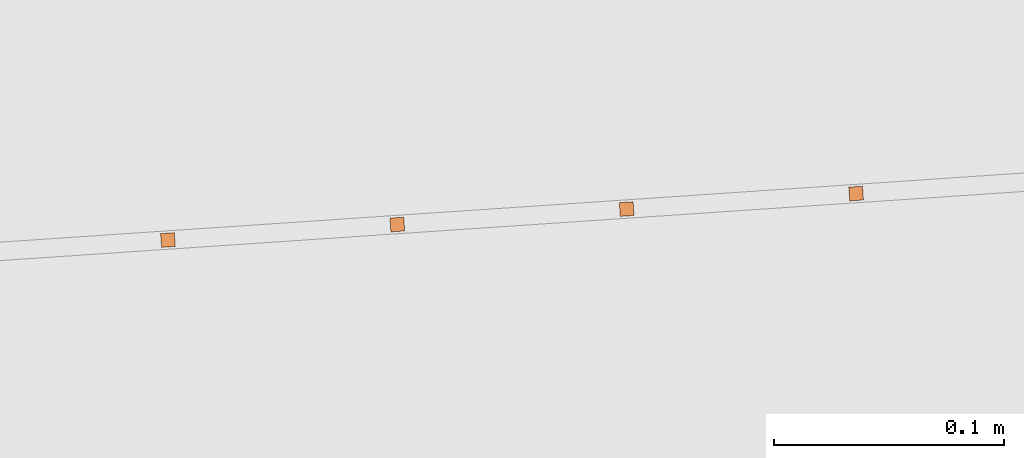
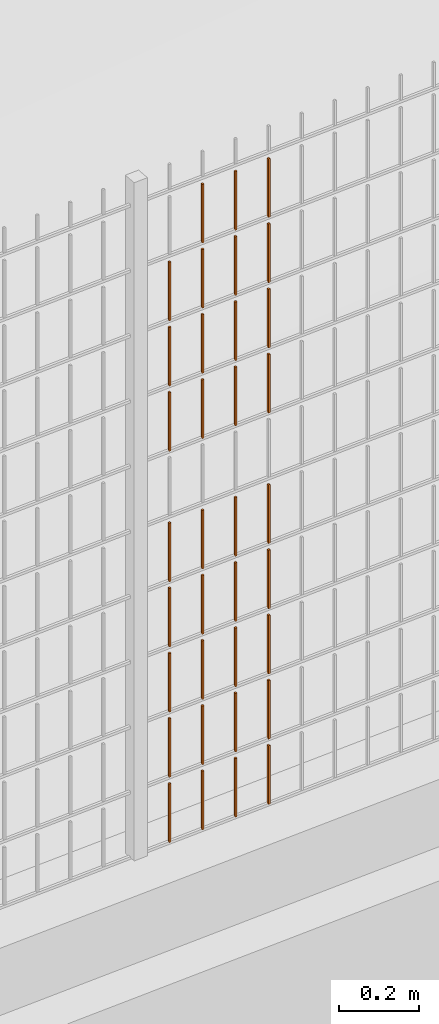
# One storey, part 187 of 1809: 35 proxies, 1 element without a shape of its own.
"""IFC2X3 building model written with IfcOpenShell, lengths in millimetres."""

import ifcopenshell
import ifcopenshell.guid

model = None  # the IFC model being written
_history = None  # IfcOwnerHistory: only IFC2X3 demands one
_inside = {}  # id of a spatial element -> (the spatial element, [elements in it])
_under = {}  # id of a project, library or spatial element -> (it, [spatial elements below it])
_declared = {}  # id of a project -> (the project, [libraries it declares])
_typed = {}  # id of a type object -> (the type object, [elements of that type])
_made_of = {}  # id of a material, layer set ... -> (it, [elements and type objects made of it])


def new_model(schema):
    """Start an empty IFC model of exactly this schema.

    Asked for "IFC4X3", IfcOpenShell would pick the latest addendum, in which some entities
    have other attributes; the version numbers below select the first issue.
    IFC2X3 requires an IfcOwnerHistory on every rooted entity: one is made here for all.
    """
    global model, _history
    if schema == "IFC4X3":
        model = ifcopenshell.file(schema_version=(4, 3, 0, 0))
    else:
        model = ifcopenshell.file(schema=schema)
    _inside.clear()
    _under.clear()
    _declared.clear()
    _typed.clear()
    _made_of.clear()
    _history = None
    if model.schema == "IFC2X3":
        org = make("IfcOrganization", Name="unknown")
        user = make(
            "IfcPersonAndOrganization",
            ThePerson=make("IfcPerson", FamilyName="unknown"),
            TheOrganization=org,
        )
        app = make(
            "IfcApplication",
            ApplicationDeveloper=org,
            Version="unknown",
            ApplicationFullName="unknown",
            ApplicationIdentifier="unknown",
        )
        _history = make(
            "IfcOwnerHistory",
            OwningUser=user,
            OwningApplication=app,
            ChangeAction="ADDED",
            CreationDate=0,
        )
    return model


def make(cls, **values):
    """One entity of the class cls with the attributes given. An attribute that is None is left unset."""
    return model.create_entity(
        cls, **{name: value for name, value in values.items() if value is not None}
    )


def entity(cls, *values):
    """Any entity or typed value of the class cls, its attributes in the order of the schema. None: left unset."""
    e = model.create_entity(cls)
    for i, value in enumerate(values):
        if value is not None:
            e[i] = value
    return e


def rooted(cls, **values):
    """An entity with a GlobalId (a new one), such as an element, a storey or a relation."""
    return make(cls, GlobalId=ifcopenshell.guid.new(), OwnerHistory=_history, **values)


def si_unit(unit_type, name, prefix=None):
    """IfcSIUnit, for example si_unit("LENGTHUNIT", "METRE", prefix="MILLI")."""
    return make("IfcSIUnit", UnitType=unit_type, Prefix=prefix, Name=name)


def converted_unit(unit_type, name, factor, base, dimensions=None, offset=None):
    """IfcConversionBasedUnit, such as the inch: factor (a typed value) times the base unit."""
    return make(
        "IfcConversionBasedUnit"
        if offset is None
        else "IfcConversionBasedUnitWithOffset",
        ConversionOffset=offset,
        Dimensions=None
        if dimensions is None
        else entity("IfcDimensionalExponents", *dimensions),
        UnitType=unit_type,
        Name=name,
        ConversionFactor=make(
            "IfcMeasureWithUnit", ValueComponent=factor, UnitComponent=base
        ),
    )


def derived_unit(unit_type, elements):
    """IfcDerivedUnit: a product of units, each with its exponent."""
    return make(
        "IfcDerivedUnit",
        Elements=[
            make("IfcDerivedUnitElement", Unit=unit, Exponent=power)
            for unit, power in elements
        ],
        UnitType=unit_type,
    )


def money_unit(currency):
    """IfcMonetaryUnit."""
    return make("IfcMonetaryUnit", Currency=currency)


def assignment(units):
    """IfcUnitAssignment: the units of a project."""
    return None if units is None else make("IfcUnitAssignment", Units=units)


def point(xyz):
    """IfcCartesianPoint."""
    return None if xyz is None else make("IfcCartesianPoint", Coordinates=xyz)


def direction(xyz):
    """IfcDirection."""
    return None if xyz is None else make("IfcDirection", DirectionRatios=xyz)


def frame(location, z_axis=None, x_axis=None):
    """IfcAxis2Placement3D, a coordinate frame: its origin and axes. An axis left out is left unset."""
    return make(
        "IfcAxis2Placement3D",
        Location=point(location),
        Axis=direction(z_axis),
        RefDirection=direction(x_axis),
    )


def origin_with_axes():
    """The frame at (0, 0, 0) with the z axis (0, 0, 1) and the x axis (1, 0, 0) written out."""
    return frame((0.0, 0.0, 0.0), z_axis=(0.0, 0.0, 1.0), x_axis=(1.0, 0.0, 0.0))


def place(relative_to, where):
    """IfcLocalPlacement: puts the frame where relative to a parent placement (None: the world)."""
    return make(
        "IfcLocalPlacement", PlacementRelTo=relative_to, RelativePlacement=where
    )


def context(
    kind, dimensions, precision=None, world=None, true_north=None, identifier=None
):
    """IfcGeometricRepresentationContext, for example the 3D "Model" context."""
    return make(
        "IfcGeometricRepresentationContext",
        ContextIdentifier=identifier,
        ContextType=kind,
        CoordinateSpaceDimension=dimensions,
        Precision=precision,
        WorldCoordinateSystem=world,
        TrueNorth=true_north,
    )


def subcontext(parent, identifier, kind, view, scale=None):
    """IfcGeometricRepresentationSubContext, for example "Body" below "Model"."""
    return make(
        "IfcGeometricRepresentationSubContext",
        ContextIdentifier=identifier,
        ContextType=kind,
        ParentContext=parent,
        TargetScale=scale,
        TargetView=view,
    )


def project(units=None, contexts=None):
    """IfcProject with its units and contexts."""
    return rooted(
        "IfcProject",
        Name="project",
        RepresentationContexts=contexts,
        UnitsInContext=assignment(units),
    )


def spatial(cls, under=None, at=None, **own):
    """A site, building, storey or space (cls), placed at a placement, below another one or the project."""
    s = rooted(cls, ObjectPlacement=at, **own)
    if under is not None:
        _under.setdefault(under.id(), (under, []))[1].append(s)
    return s


def faces_of(points, faces, orient=None, outer=None):
    """IfcFace entities. A face is a list of loops; a loop is a list of indices into points, from 0.

    orient and outer hold one flag for each loop. By default every Orientation is true, the
    first loop of a face is its IfcFaceOuterBound and the others are IfcFaceBound.
    """
    made = []
    for i, loops in enumerate(faces):
        bounds = []
        for j, loop in enumerate(loops):
            is_outer = j == 0 if outer is None else outer[i][j]
            bounds.append(
                make(
                    "IfcFaceOuterBound" if is_outer else "IfcFaceBound",
                    Bound=make("IfcPolyLoop", Polygon=[points[k] for k in loop]),
                    Orientation=True if orient is None else orient[i][j],
                )
            )
        made.append(make("IfcFace", Bounds=bounds))
    return made


def faceted_brep(points, faces, orient=None, outer=None, voids=None):
    """IfcFacetedBrep: a solid bounded by flat faces; with voids (closed shells), ...WithVoids."""
    shared = [point(p) for p in points]
    hull = make("IfcClosedShell", CfsFaces=faces_of(shared, faces, orient, outer))
    if voids is None:
        return make("IfcFacetedBrep", Outer=hull)
    return make(
        "IfcFacetedBrepWithVoids",
        Outer=hull,
        Voids=[
            make(cls, CfsFaces=faces_of(shared, fs, o, b)) for cls, fs, o, b in voids
        ],
    )


def shape(context_of_items, identifier, shape_type, items):
    """IfcShapeRepresentation: the items that make up one representation, for example the "Body"."""
    return make(
        "IfcShapeRepresentation",
        ContextOfItems=context_of_items,
        RepresentationIdentifier=identifier,
        RepresentationType=shape_type,
        Items=items,
    )


def source(mapping_origin, context_of_items, identifier, shape_type, items):
    """IfcRepresentationMap: a shape defined once, which mapped items show again and again."""
    return make(
        "IfcRepresentationMap",
        MappingOrigin=mapping_origin,
        MappedRepresentation=shape(context_of_items, identifier, shape_type, items),
    )


def transform(
    local_origin,
    x_axis=None,
    y_axis=None,
    z_axis=None,
    scale=None,
    scale2=None,
    scale3=None,
    uniform=True,
):
    """IfcCartesianTransformationOperator3D, or its non-uniform kind. x_axis, y_axis, z_axis: its Axis1, 2, 3."""
    if uniform:
        return make(
            "IfcCartesianTransformationOperator3D",
            Axis1=direction(x_axis),
            Axis2=direction(y_axis),
            LocalOrigin=point(local_origin),
            Scale=scale,
            Axis3=direction(z_axis),
        )
    return make(
        "IfcCartesianTransformationOperator3DnonUniform",
        Axis1=direction(x_axis),
        Axis2=direction(y_axis),
        LocalOrigin=point(local_origin),
        Scale=scale,
        Axis3=direction(z_axis),
        Scale2=scale2,
        Scale3=scale3,
    )


def mapped(mapping_source, mapping_target):
    """IfcMappedItem: shows the shape of a source again, moved by a transform."""
    return make(
        "IfcMappedItem", MappingSource=mapping_source, MappingTarget=mapping_target
    )


def material(Name=None, Category=None):
    """IfcMaterial."""
    return make("IfcMaterial", Name=Name, Category=Category)


def made_of(thing, what):
    """Note that an element or type object is made of a material, layer set ...; save() writes the relation."""
    if what is not None:
        _made_of.setdefault(what.id(), (what, []))[1].append(thing)
    return thing


def type_object(cls, material=None, **own):
    """A type object (cls), such as IfcWallType, which elements share."""
    return made_of(rooted(cls, **own), material)


def element(
    cls,
    number,
    at=None,
    inside=None,
    cuts=None,
    type_object=None,
    material=None,
    context=None,
    identifier="Body",
    shape_type=None,
    held_by="IfcProductDefinitionShape",
    body=None,
    shapes=None,
    **own,
):
    """One element of the class cls, such as IfcWall. Its Tag is "e" and its number.

    at: its placement. inside: the storey or other place that contains it. cuts: it is an
    opening in that element (IfcRelVoidsElement). A single representation is given by context,
    identifier, shape_type and body (its items); several are given by shapes. held_by: the class
    of the entity that holds the representations. save() writes the other relations.
    """
    e = rooted(cls, Tag="e%d" % number, ObjectPlacement=at, **own)
    if body is not None:
        shapes = [shape(context, identifier, shape_type, body)]
    if shapes is not None:
        e.Representation = make(held_by, Representations=shapes)
    if inside is not None:
        _inside.setdefault(inside.id(), (inside, []))[1].append(e)
    if cuts is not None:
        rooted(
            "IfcRelVoidsElement", RelatingBuildingElement=cuts, RelatedOpeningElement=e
        )
    if type_object is not None:
        _typed.setdefault(type_object.id(), (type_object, []))[1].append(e)
    return made_of(e, material)


def aggregate(whole, parts):
    """IfcRelAggregates: a whole, such as a stair, and the parts it consists of."""
    return rooted("IfcRelAggregates", RelatingObject=whole, RelatedObjects=parts)


def save(model, path):
    """Write the relations noted so far, then the file.

    IfcRelAggregates (storeys below a building ...), IfcRelContainedInSpatialStructure (elements
    in a storey), IfcRelDefinesByType, IfcRelAssociatesMaterial and IfcRelDeclares: one each for
    every whole, place, type object, material and project.
    """
    for whole, parts in _under.values():
        aggregate(whole, parts)
    for where, things in _inside.values():
        rooted(
            "IfcRelContainedInSpatialStructure",
            RelatedElements=things,
            RelatingStructure=where,
        )
    for kind, things in _typed.values():
        rooted("IfcRelDefinesByType", RelatedObjects=things, RelatingType=kind)
    for what, things in _made_of.values():
        rooted("IfcRelAssociatesMaterial", RelatedObjects=things, RelatingMaterial=what)
    for by, libraries in _declared.values():
        rooted("IfcRelDeclares", RelatingContext=by, RelatedDefinitions=libraries)
    model.write(path)


model = new_model("IFC2X3")

# Units and contexts
model_context = context("Model", 3, precision=0.01, world=origin_with_axes(), true_north=direction((0.0, 1.0)))
body_context = subcontext(model_context, "Body", "Model", "MODEL_VIEW")
ifc_project = project(units=[si_unit("LENGTHUNIT", "METRE", prefix="MILLI"), si_unit("AREAUNIT", "SQUARE_METRE"), si_unit("VOLUMEUNIT", "CUBIC_METRE"), converted_unit("PLANEANGLEUNIT", "DEGREE", entity("IfcPlaneAngleMeasure", 0.0174532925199), si_unit("PLANEANGLEUNIT", "RADIAN"), dimensions=[0, 0, 0, 0, 0, 0, 0]), si_unit("SOLIDANGLEUNIT", "STERADIAN"), money_unit("EUR"), converted_unit("TIMEUNIT", "Year", entity("IfcTimeMeasure", 31556926.0), si_unit("TIMEUNIT", "SECOND"), dimensions=[0, 0, 1, 0, 0, 0, 0]), si_unit("MASSUNIT", "GRAM", prefix="KILO"), si_unit("THERMODYNAMICTEMPERATUREUNIT", "DEGREE_CELSIUS"), si_unit("LUMINOUSINTENSITYUNIT", "LUMEN"), si_unit("ENERGYUNIT", "JOULE", prefix="MEGA"), derived_unit("THERMALCONDUCTANCEUNIT", [(si_unit("POWERUNIT", "WATT"), 1), (si_unit("LENGTHUNIT", "METRE"), -1), (si_unit("THERMODYNAMICTEMPERATUREUNIT", "KELVIN"), -1)]), derived_unit("SPECIFICHEATCAPACITYUNIT", [(si_unit("ENERGYUNIT", "JOULE"), 1), (si_unit("MASSUNIT", "GRAM", prefix="KILO"), -1), (si_unit("THERMODYNAMICTEMPERATUREUNIT", "KELVIN"), -1)]), derived_unit("MASSDENSITYUNIT", [(si_unit("MASSUNIT", "GRAM", prefix="KILO"), 1), (si_unit("VOLUMEUNIT", "CUBIC_METRE"), -1)])], contexts=[model_context])

# Site, building, storey
site_placement = place(None, origin_with_axes())
site = spatial("IfcSite", under=ifc_project, at=site_placement, Name="Politse- ja Piirivalveameti ning Päästeameti ühishoone", CompositionType="ELEMENT")
building_placement = place(site_placement, origin_with_axes())
building = spatial("IfcBuilding", under=site, at=building_placement, Name="Politse- ja Piirivalveameti ning Päästeameti ühishoone", CompositionType="ELEMENT")
storey_placement = place(building_placement, origin_with_axes())
storey = spatial("IfcBuildingStorey", under=building, at=storey_placement, Name="Esimene korrus", CompositionType="ELEMENT", Elevation=0.0)

# Proxies
building_element_proxy_type_1 = type_object("IfcBuildingElementProxyType", Name="Railing Type", PredefinedType="NOTDEFINED")
proxy_1_placement = place(storey_placement, frame((89252.001212, -29183.4766571, 203.661247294), z_axis=(0.0, 0.0, 1.0), x_axis=(1.0, 0.0, 0.0)))
proxy_1 = element("IfcBuildingElementProxy", 1, at=proxy_1_placement, inside=storey, type_object=building_element_proxy_type_1, Name="PIIRDEAED")
ifc_material = material(Name="ET-03_Raud")
building_element_proxy_type_2 = type_object("IfcBuildingElementProxyType", Name="IfcBuildingElementProxy", PredefinedType="NOTDEFINED")
shared_shape_1 = source(origin_with_axes(), body_context, "Body", "Brep", [
    faceted_brep([(3.0, 3.0, -0.000752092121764), (-3.0, 3.0, -0.000752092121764), (-3.0, 3.0, 179.99926046), (3.0, 3.0, 179.99926046), (3.0, -3.0, 0.000752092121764), (-3.0, -3.0, 0.000752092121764), (-3.0, -3.0, 180.000764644), (3.0, -3.0, 180.000764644)], [[[0, 1, 2, 3]], [[0, 4, 5, 1]], [[1, 5, 6, 2]], [[3, 2, 6, 7]], [[4, 0, 3, 7]], [[5, 4, 7, 6]]]),
])
proxy_2_placement = place(proxy_1_placement, frame((-69468.3937994, -21990.1025985, 1209.77915768), z_axis=(0.0, 0.0, 1.0), x_axis=(1.0, 0.0, 0.0)))
proxy_2 = element("IfcBuildingElementProxy", 2, at=proxy_2_placement, type_object=building_element_proxy_type_2, material=ifc_material, Name="BALUSTER - 001", context=body_context, shape_type="MappedRepresentation", body=[
    mapped(shared_shape_1, transform((0.0, 0.0, 0.0), x_axis=(-0.0673926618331, 0.997726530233, 0.0), y_axis=(-0.997726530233, -0.0673926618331, 0.0), z_axis=(0.0, 0.0, 1.0))),
])
shared_shape_2 = source(origin_with_axes(), body_context, "Body", "Brep", [
    faceted_brep([(3.0, 3.0, -0.000752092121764), (-3.0, 3.0, -0.000752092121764), (-3.0, 3.0, 179.99926046), (3.0, 3.0, 179.99926046), (3.0, -3.0, 0.000752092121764), (-3.0, -3.0, 0.000752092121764), (-3.0, -3.0, 180.000764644), (3.0, -3.0, 180.000764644)], [[[0, 1, 2, 3]], [[0, 4, 5, 1]], [[1, 5, 6, 2]], [[3, 2, 6, 7]], [[4, 0, 3, 7]], [[5, 4, 7, 6]]]),
])
proxy_3_placement = place(proxy_1_placement, frame((-69468.3937994, -21990.1025985, 1409.77915768), z_axis=(0.0, 0.0, 1.0), x_axis=(1.0, 0.0, 0.0)))
proxy_3 = element("IfcBuildingElementProxy", 3, at=proxy_3_placement, type_object=building_element_proxy_type_2, material=ifc_material, Name="BALUSTER - 001", context=body_context, shape_type="MappedRepresentation", body=[
    mapped(shared_shape_2, transform((0.0, 0.0, 0.0), x_axis=(-0.0673926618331, 0.997726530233, 0.0), y_axis=(-0.997726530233, -0.0673926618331, 0.0), z_axis=(0.0, 0.0, 1.0))),
])
proxy_4_placement = place(proxy_1_placement, frame((-69468.3937994, -21990.1025985, 1609.77915768), z_axis=(0.0, 0.0, 1.0), x_axis=(1.0, 0.0, 0.0)))
proxy_4 = element("IfcBuildingElementProxy", 4, at=proxy_4_placement, type_object=building_element_proxy_type_2, material=ifc_material, Name="BALUSTER - 001", context=body_context, shape_type="MappedRepresentation", body=[
    mapped(shared_shape_2, transform((0.0, 0.0, 0.0), x_axis=(-0.0673926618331, 0.997726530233, 0.0), y_axis=(-0.997726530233, -0.0673926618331, 0.0), z_axis=(0.0, 0.0, 1.0))),
])
shared_shape_3 = source(origin_with_axes(), body_context, "Body", "Brep", [
    faceted_brep([(3.0, 3.0, -0.000752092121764), (-3.0, 3.0, -0.000752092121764), (-3.0, 3.0, 179.99926046), (3.0, 3.0, 179.99926046), (3.0, -3.0, 0.000752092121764), (-3.0, -3.0, 0.000752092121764), (-3.0, -3.0, 180.000764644), (3.0, -3.0, 180.000764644)], [[[0, 1, 2, 3]], [[0, 4, 5, 1]], [[1, 5, 6, 2]], [[3, 2, 6, 7]], [[4, 0, 3, 7]], [[5, 4, 7, 6]]]),
])
proxy_5_placement = place(proxy_1_placement, frame((-69468.3937994, -21990.1025985, 1809.77915768), z_axis=(0.0, 0.0, 1.0), x_axis=(1.0, 0.0, 0.0)))
proxy_5 = element("IfcBuildingElementProxy", 5, at=proxy_5_placement, type_object=building_element_proxy_type_2, material=ifc_material, Name="BALUSTER - 001", context=body_context, shape_type="MappedRepresentation", body=[
    mapped(shared_shape_3, transform((0.0, 0.0, 0.0), x_axis=(-0.0673926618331, 0.997726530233, 0.0), y_axis=(-0.997726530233, -0.0673926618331, 0.0), z_axis=(0.0, 0.0, 1.0))),
])
shared_shape_4 = source(origin_with_axes(), body_context, "Body", "Brep", [
    faceted_brep([(3.0, 3.0, -0.000752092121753), (-3.0, 3.0, -0.000752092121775), (-3.0, 3.0, 179.99926046), (3.0, 3.0, 179.99926046), (3.0, -3.0, 0.000752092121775), (-3.0, -3.0, 0.000752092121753), (-3.0, -3.0, 180.000764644), (3.0, -3.0, 180.000764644)], [[[0, 1, 2, 3]], [[0, 4, 5, 1]], [[1, 5, 6, 2]], [[3, 2, 6, 7]], [[4, 0, 3, 7]], [[5, 4, 7, 6]]]),
])
proxy_6_placement = place(proxy_1_placement, frame((-69568.1664524, -21996.8418647, 1209.75408794), z_axis=(0.0, 0.0, 1.0), x_axis=(1.0, 0.0, 0.0)))
proxy_6 = element("IfcBuildingElementProxy", 6, at=proxy_6_placement, type_object=building_element_proxy_type_2, material=ifc_material, Name="BALUSTER - 001", context=body_context, shape_type="MappedRepresentation", body=[
    mapped(shared_shape_4, transform((0.0, 0.0, 0.0), x_axis=(-0.0673926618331, 0.997726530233, 0.0), y_axis=(-0.997726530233, -0.0673926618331, 0.0), z_axis=(0.0, 0.0, 1.0))),
])
shared_shape_5 = source(origin_with_axes(), body_context, "Body", "Brep", [
    faceted_brep([(3.0, 3.0, -0.000752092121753), (-3.0, 3.0, -0.000752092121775), (-3.0, 3.0, 179.99926046), (3.0, 3.0, 179.99926046), (3.0, -3.0, 0.000752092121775), (-3.0, -3.0, 0.000752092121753), (-3.0, -3.0, 180.000764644), (3.0, -3.0, 180.000764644)], [[[0, 1, 2, 3]], [[0, 4, 5, 1]], [[1, 5, 6, 2]], [[3, 2, 6, 7]], [[4, 0, 3, 7]], [[5, 4, 7, 6]]]),
])
proxy_7_placement = place(proxy_1_placement, frame((-69568.1664524, -21996.8418647, 1409.75408794), z_axis=(0.0, 0.0, 1.0), x_axis=(1.0, 0.0, 0.0)))
proxy_7 = element("IfcBuildingElementProxy", 7, at=proxy_7_placement, type_object=building_element_proxy_type_2, material=ifc_material, Name="BALUSTER - 001", context=body_context, shape_type="MappedRepresentation", body=[
    mapped(shared_shape_5, transform((0.0, 0.0, 0.0), x_axis=(-0.0673926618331, 0.997726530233, 0.0), y_axis=(-0.997726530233, -0.0673926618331, 0.0), z_axis=(0.0, 0.0, 1.0))),
])
proxy_8_placement = place(proxy_1_placement, frame((-69568.1664524, -21996.8418647, 1609.75408794), z_axis=(0.0, 0.0, 1.0), x_axis=(1.0, 0.0, 0.0)))
proxy_8 = element("IfcBuildingElementProxy", 8, at=proxy_8_placement, type_object=building_element_proxy_type_2, material=ifc_material, Name="BALUSTER - 001", context=body_context, shape_type="MappedRepresentation", body=[
    mapped(shared_shape_5, transform((0.0, 0.0, 0.0), x_axis=(-0.0673926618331, 0.997726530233, 0.0), y_axis=(-0.997726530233, -0.0673926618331, 0.0), z_axis=(0.0, 0.0, 1.0))),
])
shared_shape_6 = source(origin_with_axes(), body_context, "Body", "Brep", [
    faceted_brep([(3.0, 3.0, -0.000752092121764), (-3.0, 3.0, -0.000752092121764), (-3.0, 3.0, 179.99926046), (3.0, 3.0, 179.99926046), (3.0, -3.0, 0.000752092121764), (-3.0, -3.0, 0.000752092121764), (-3.0, -3.0, 180.000764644), (3.0, -3.0, 180.000764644)], [[[0, 1, 2, 3]], [[0, 4, 5, 1]], [[1, 5, 6, 2]], [[3, 2, 6, 7]], [[4, 0, 3, 7]], [[5, 4, 7, 6]]]),
])
proxy_9_placement = place(proxy_1_placement, frame((-69568.1664524, -21996.8418647, 9.7540879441), z_axis=(0.0, 0.0, 1.0), x_axis=(1.0, 0.0, 0.0)))
proxy_9 = element("IfcBuildingElementProxy", 9, at=proxy_9_placement, type_object=building_element_proxy_type_2, material=ifc_material, Name="BALUSTER - 001", context=body_context, shape_type="MappedRepresentation", body=[
    mapped(shared_shape_6, transform((0.0, 0.0, 0.0), x_axis=(-0.0673926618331, 0.997726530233, 0.0), y_axis=(-0.997726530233, -0.0673926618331, 0.0), z_axis=(0.0, 0.0, 1.0))),
])
shared_shape_7 = source(origin_with_axes(), body_context, "Body", "Brep", [
    faceted_brep([(3.0, 3.0, -0.000752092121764), (-3.0, 3.0, -0.000752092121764), (-3.0, 3.0, 179.99926046), (3.0, 3.0, 179.99926046), (3.0, -3.0, 0.000752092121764), (-3.0, -3.0, 0.000752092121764), (-3.0, -3.0, 180.000764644), (3.0, -3.0, 180.000764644)], [[[0, 1, 2, 3]], [[0, 4, 5, 1]], [[1, 5, 6, 2]], [[3, 2, 6, 7]], [[4, 0, 3, 7]], [[5, 4, 7, 6]]]),
])
proxy_10_placement = place(proxy_1_placement, frame((-69268.8484934, -21976.6240661, 9.82929715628), z_axis=(0.0, 0.0, 1.0), x_axis=(1.0, 0.0, 0.0)))
proxy_10 = element("IfcBuildingElementProxy", 10, at=proxy_10_placement, type_object=building_element_proxy_type_2, material=ifc_material, Name="BALUSTER - 001", context=body_context, shape_type="MappedRepresentation", body=[
    mapped(shared_shape_7, transform((0.0, 0.0, 0.0), x_axis=(-0.0673926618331, 0.997726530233, 0.0), y_axis=(-0.997726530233, -0.0673926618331, 0.0), z_axis=(0.0, 0.0, 1.0))),
])
shared_shape_8 = source(origin_with_axes(), body_context, "Body", "Brep", [
    faceted_brep([(3.0, 3.0, -0.000752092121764), (-3.0, 3.0, -0.000752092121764), (-3.0, 3.0, 179.99926046), (3.0, 3.0, 179.99926046), (3.0, -3.0, 0.000752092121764), (-3.0, -3.0, 0.000752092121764), (-3.0, -3.0, 180.000764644), (3.0, -3.0, 180.000764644)], [[[0, 1, 2, 3]], [[0, 4, 5, 1]], [[1, 5, 6, 2]], [[3, 2, 6, 7]], [[4, 0, 3, 7]], [[5, 4, 7, 6]]]),
])
proxy_11_placement = place(proxy_1_placement, frame((-69268.8484934, -21976.6240661, 209.829297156), z_axis=(0.0, 0.0, 1.0), x_axis=(1.0, 0.0, 0.0)))
proxy_11 = element("IfcBuildingElementProxy", 11, at=proxy_11_placement, type_object=building_element_proxy_type_2, material=ifc_material, Name="BALUSTER - 001", context=body_context, shape_type="MappedRepresentation", body=[
    mapped(shared_shape_8, transform((0.0, 0.0, 0.0), x_axis=(-0.0673926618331, 0.997726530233, 0.0), y_axis=(-0.997726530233, -0.0673926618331, 0.0), z_axis=(0.0, 0.0, 1.0))),
])
proxy_12_placement = place(proxy_1_placement, frame((-69268.8484934, -21976.6240661, 409.829297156), z_axis=(0.0, 0.0, 1.0), x_axis=(1.0, 0.0, 0.0)))
proxy_12 = element("IfcBuildingElementProxy", 12, at=proxy_12_placement, type_object=building_element_proxy_type_2, material=ifc_material, Name="BALUSTER - 001", context=body_context, shape_type="MappedRepresentation", body=[
    mapped(shared_shape_8, transform((0.0, 0.0, 0.0), x_axis=(-0.0673926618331, 0.997726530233, 0.0), y_axis=(-0.997726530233, -0.0673926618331, 0.0), z_axis=(0.0, 0.0, 1.0))),
])
proxy_13_placement = place(proxy_1_placement, frame((-69568.1664524, -21996.8418647, 609.754087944), z_axis=(0.0, 0.0, 1.0), x_axis=(1.0, 0.0, 0.0)))
proxy_13 = element("IfcBuildingElementProxy", 13, at=proxy_13_placement, type_object=building_element_proxy_type_2, material=ifc_material, Name="BALUSTER - 001", context=body_context, shape_type="MappedRepresentation", body=[
    mapped(shared_shape_8, transform((0.0, 0.0, 0.0), x_axis=(-0.0673926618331, 0.997726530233, 0.0), y_axis=(-0.997726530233, -0.0673926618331, 0.0), z_axis=(0.0, 0.0, 1.0))),
])
shared_shape_9 = source(origin_with_axes(), body_context, "Body", "Brep", [
    faceted_brep([(3.0, 3.0, -0.000752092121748), (-3.0, 3.0, -0.00075209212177), (-3.0, 3.0, 179.99926046), (3.0, 3.0, 179.99926046), (3.0, -3.0, 0.00075209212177), (-3.0, -3.0, 0.000752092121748), (-3.0, -3.0, 180.000764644), (3.0, -3.0, 180.000764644)], [[[0, 1, 2, 3]], [[0, 4, 5, 1]], [[1, 5, 6, 2]], [[3, 2, 6, 7]], [[4, 0, 3, 7]], [[5, 4, 7, 6]]]),
])
proxy_14_placement = place(proxy_1_placement, frame((-69368.6211464, -21983.3633323, 409.804227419), z_axis=(0.0, 0.0, 1.0), x_axis=(1.0, 0.0, 0.0)))
proxy_14 = element("IfcBuildingElementProxy", 14, at=proxy_14_placement, type_object=building_element_proxy_type_2, material=ifc_material, Name="BALUSTER - 001", context=body_context, shape_type="MappedRepresentation", body=[
    mapped(shared_shape_9, transform((0.0, 0.0, 0.0), x_axis=(-0.0673926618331, 0.997726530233, 0.0), y_axis=(-0.997726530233, -0.0673926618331, 0.0), z_axis=(0.0, 0.0, 1.0))),
])
proxy_15_placement = place(proxy_1_placement, frame((-69368.6211464, -21983.3633323, 609.804227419), z_axis=(0.0, 0.0, 1.0), x_axis=(1.0, 0.0, 0.0)))
proxy_15 = element("IfcBuildingElementProxy", 15, at=proxy_15_placement, type_object=building_element_proxy_type_2, material=ifc_material, Name="BALUSTER - 001", context=body_context, shape_type="MappedRepresentation", body=[
    mapped(shared_shape_9, transform((0.0, 0.0, 0.0), x_axis=(-0.0673926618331, 0.997726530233, 0.0), y_axis=(-0.997726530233, -0.0673926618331, 0.0), z_axis=(0.0, 0.0, 1.0))),
])
shared_shape_10 = source(origin_with_axes(), body_context, "Body", "Brep", [
    faceted_brep([(3.0, 3.0, -0.000752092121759), (-3.0, 3.0, -0.000752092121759), (-3.0, 3.0, 179.99926046), (3.0, 3.0, 179.99926046), (3.0, -3.0, 0.000752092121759), (-3.0, -3.0, 0.000752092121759), (-3.0, -3.0, 180.000764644), (3.0, -3.0, 180.000764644)], [[[0, 1, 2, 3]], [[0, 4, 5, 1]], [[1, 5, 6, 2]], [[3, 2, 6, 7]], [[4, 0, 3, 7]], [[5, 4, 7, 6]]]),
])
proxy_16_placement = place(proxy_1_placement, frame((-69468.3937994, -21990.1025985, 409.779157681), z_axis=(0.0, 0.0, 1.0), x_axis=(1.0, 0.0, 0.0)))
proxy_16 = element("IfcBuildingElementProxy", 16, at=proxy_16_placement, type_object=building_element_proxy_type_2, material=ifc_material, Name="BALUSTER - 001", context=body_context, shape_type="MappedRepresentation", body=[
    mapped(shared_shape_10, transform((0.0, 0.0, 0.0), x_axis=(-0.0673926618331, 0.997726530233, 0.0), y_axis=(-0.997726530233, -0.0673926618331, 0.0), z_axis=(0.0, 0.0, 1.0))),
])
proxy_17_placement = place(proxy_1_placement, frame((-69468.3937994, -21990.1025985, 609.779157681), z_axis=(0.0, 0.0, 1.0), x_axis=(1.0, 0.0, 0.0)))
proxy_17 = element("IfcBuildingElementProxy", 17, at=proxy_17_placement, type_object=building_element_proxy_type_2, material=ifc_material, Name="BALUSTER - 001", context=body_context, shape_type="MappedRepresentation", body=[
    mapped(shared_shape_10, transform((0.0, 0.0, 0.0), x_axis=(-0.0673926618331, 0.997726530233, 0.0), y_axis=(-0.997726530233, -0.0673926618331, 0.0), z_axis=(0.0, 0.0, 1.0))),
])
shared_shape_11 = source(origin_with_axes(), body_context, "Body", "Brep", [
    faceted_brep([(3.0, 3.0, -0.000752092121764), (-3.0, 3.0, -0.000752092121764), (-3.0, 3.0, 179.99926046), (3.0, 3.0, 179.99926046), (3.0, -3.0, 0.000752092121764), (-3.0, -3.0, 0.000752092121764), (-3.0, -3.0, 180.000764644), (3.0, -3.0, 180.000764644)], [[[0, 1, 2, 3]], [[0, 4, 5, 1]], [[1, 5, 6, 2]], [[3, 2, 6, 7]], [[4, 0, 3, 7]], [[5, 4, 7, 6]]]),
])
proxy_18_placement = place(proxy_1_placement, frame((-69568.1664524, -21996.8418647, 409.754087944), z_axis=(0.0, 0.0, 1.0), x_axis=(1.0, 0.0, 0.0)))
proxy_18 = element("IfcBuildingElementProxy", 18, at=proxy_18_placement, type_object=building_element_proxy_type_2, material=ifc_material, Name="BALUSTER - 001", context=body_context, shape_type="MappedRepresentation", body=[
    mapped(shared_shape_11, transform((0.0, 0.0, 0.0), x_axis=(-0.0673926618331, 0.997726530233, 0.0), y_axis=(-0.997726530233, -0.0673926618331, 0.0), z_axis=(0.0, 0.0, 1.0))),
])
proxy_19_placement = place(proxy_1_placement, frame((-69268.8484934, -21976.6240661, 609.829297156), z_axis=(0.0, 0.0, 1.0), x_axis=(1.0, 0.0, 0.0)))
proxy_19 = element("IfcBuildingElementProxy", 19, at=proxy_19_placement, type_object=building_element_proxy_type_2, material=ifc_material, Name="BALUSTER - 001", context=body_context, shape_type="MappedRepresentation", body=[
    mapped(shared_shape_11, transform((0.0, 0.0, 0.0), x_axis=(-0.0673926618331, 0.997726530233, 0.0), y_axis=(-0.997726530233, -0.0673926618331, 0.0), z_axis=(0.0, 0.0, 1.0))),
])
shared_shape_12 = source(origin_with_axes(), body_context, "Body", "Brep", [
    faceted_brep([(3.0, 3.0, -0.000752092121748), (-3.0, 3.0, -0.00075209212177), (-3.0, 3.0, 179.99926046), (3.0, 3.0, 179.99926046), (3.0, -3.0, 0.00075209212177), (-3.0, -3.0, 0.000752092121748), (-3.0, -3.0, 180.000764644), (3.0, -3.0, 180.000764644)], [[[0, 1, 2, 3]], [[0, 4, 5, 1]], [[1, 5, 6, 2]], [[3, 2, 6, 7]], [[4, 0, 3, 7]], [[5, 4, 7, 6]]]),
])
proxy_20_placement = place(proxy_1_placement, frame((-69368.6211464, -21983.3633323, 209.804227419), z_axis=(0.0, 0.0, 1.0), x_axis=(1.0, 0.0, 0.0)))
proxy_20 = element("IfcBuildingElementProxy", 20, at=proxy_20_placement, type_object=building_element_proxy_type_2, material=ifc_material, Name="BALUSTER - 001", context=body_context, shape_type="MappedRepresentation", body=[
    mapped(shared_shape_12, transform((0.0, 0.0, 0.0), x_axis=(-0.0673926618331, 0.997726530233, 0.0), y_axis=(-0.997726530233, -0.0673926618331, 0.0), z_axis=(0.0, 0.0, 1.0))),
])
shared_shape_13 = source(origin_with_axes(), body_context, "Body", "Brep", [
    faceted_brep([(3.0, 3.0, -0.000752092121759), (-3.0, 3.0, -0.000752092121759), (-3.0, 3.0, 179.99926046), (3.0, 3.0, 179.99926046), (3.0, -3.0, 0.000752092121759), (-3.0, -3.0, 0.000752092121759), (-3.0, -3.0, 180.000764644), (3.0, -3.0, 180.000764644)], [[[0, 1, 2, 3]], [[0, 4, 5, 1]], [[1, 5, 6, 2]], [[3, 2, 6, 7]], [[4, 0, 3, 7]], [[5, 4, 7, 6]]]),
])
proxy_21_placement = place(proxy_1_placement, frame((-69468.3937994, -21990.1025985, 809.779157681), z_axis=(0.0, 0.0, 1.0), x_axis=(1.0, 0.0, 0.0)))
proxy_21 = element("IfcBuildingElementProxy", 21, at=proxy_21_placement, type_object=building_element_proxy_type_2, material=ifc_material, Name="BALUSTER - 001", context=body_context, shape_type="MappedRepresentation", body=[
    mapped(shared_shape_13, transform((0.0, 0.0, 0.0), x_axis=(-0.0673926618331, 0.997726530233, 0.0), y_axis=(-0.997726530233, -0.0673926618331, 0.0), z_axis=(0.0, 0.0, 1.0))),
])
shared_shape_14 = source(origin_with_axes(), body_context, "Body", "Brep", [
    faceted_brep([(3.0, 3.0, -0.000752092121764), (-3.0, 3.0, -0.000752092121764), (-3.0, 3.0, 179.99926046), (3.0, 3.0, 179.99926046), (3.0, -3.0, 0.000752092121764), (-3.0, -3.0, 0.000752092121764), (-3.0, -3.0, 180.000764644), (3.0, -3.0, 180.000764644)], [[[0, 1, 2, 3]], [[0, 4, 5, 1]], [[1, 5, 6, 2]], [[3, 2, 6, 7]], [[4, 0, 3, 7]], [[5, 4, 7, 6]]]),
])
proxy_22_placement = place(proxy_1_placement, frame((-69268.8484934, -21976.6240661, 809.829297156), z_axis=(0.0, 0.0, 1.0), x_axis=(1.0, 0.0, 0.0)))
proxy_22 = element("IfcBuildingElementProxy", 22, at=proxy_22_placement, type_object=building_element_proxy_type_2, material=ifc_material, Name="BALUSTER - 001", context=body_context, shape_type="MappedRepresentation", body=[
    mapped(shared_shape_14, transform((0.0, 0.0, 0.0), x_axis=(-0.0673926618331, 0.997726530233, 0.0), y_axis=(-0.997726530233, -0.0673926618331, 0.0), z_axis=(0.0, 0.0, 1.0))),
])
proxy_23_placement = place(proxy_1_placement, frame((-69568.1664524, -21996.8418647, 809.754087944), z_axis=(0.0, 0.0, 1.0), x_axis=(1.0, 0.0, 0.0)))
proxy_23 = element("IfcBuildingElementProxy", 23, at=proxy_23_placement, type_object=building_element_proxy_type_2, material=ifc_material, Name="BALUSTER - 001", context=body_context, shape_type="MappedRepresentation", body=[
    mapped(shared_shape_14, transform((0.0, 0.0, 0.0), x_axis=(-0.0673926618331, 0.997726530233, 0.0), y_axis=(-0.997726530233, -0.0673926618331, 0.0), z_axis=(0.0, 0.0, 1.0))),
])
shared_shape_15 = source(origin_with_axes(), body_context, "Body", "Brep", [
    faceted_brep([(3.0, 3.0, -0.000752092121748), (-3.0, 3.0, -0.00075209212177), (-3.0, 3.0, 179.99926046), (3.0, 3.0, 179.99926046), (3.0, -3.0, 0.00075209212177), (-3.0, -3.0, 0.000752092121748), (-3.0, -3.0, 180.000764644), (3.0, -3.0, 180.000764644)], [[[0, 1, 2, 3]], [[0, 4, 5, 1]], [[1, 5, 6, 2]], [[3, 2, 6, 7]], [[4, 0, 3, 7]], [[5, 4, 7, 6]]]),
])
proxy_24_placement = place(proxy_1_placement, frame((-69368.6211464, -21983.3633323, 809.804227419), z_axis=(0.0, 0.0, 1.0), x_axis=(1.0, 0.0, 0.0)))
proxy_24 = element("IfcBuildingElementProxy", 24, at=proxy_24_placement, type_object=building_element_proxy_type_2, material=ifc_material, Name="BALUSTER - 001", context=body_context, shape_type="MappedRepresentation", body=[
    mapped(shared_shape_15, transform((0.0, 0.0, 0.0), x_axis=(-0.0673926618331, 0.997726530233, 0.0), y_axis=(-0.997726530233, -0.0673926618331, 0.0), z_axis=(0.0, 0.0, 1.0))),
])
shared_shape_16 = source(origin_with_axes(), body_context, "Body", "Brep", [
    faceted_brep([(3.0, 3.0, -0.000752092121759), (-3.0, 3.0, -0.000752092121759), (-3.0, 3.0, 179.99926046), (3.0, 3.0, 179.99926046), (3.0, -3.0, 0.000752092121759), (-3.0, -3.0, 0.000752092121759), (-3.0, -3.0, 180.000764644), (3.0, -3.0, 180.000764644)], [[[0, 1, 2, 3]], [[0, 4, 5, 1]], [[1, 5, 6, 2]], [[3, 2, 6, 7]], [[4, 0, 3, 7]], [[5, 4, 7, 6]]]),
])
proxy_25_placement = place(proxy_1_placement, frame((-69268.8484934, -21976.6240661, 1209.82929716), z_axis=(0.0, 0.0, 1.0), x_axis=(1.0, 0.0, 0.0)))
proxy_25 = element("IfcBuildingElementProxy", 25, at=proxy_25_placement, type_object=building_element_proxy_type_2, material=ifc_material, Name="BALUSTER - 001", context=body_context, shape_type="MappedRepresentation", body=[
    mapped(shared_shape_16, transform((0.0, 0.0, 0.0), x_axis=(-0.0673926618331, 0.997726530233, 0.0), y_axis=(-0.997726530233, -0.0673926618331, 0.0), z_axis=(0.0, 0.0, 1.0))),
])
shared_shape_17 = source(origin_with_axes(), body_context, "Body", "Brep", [
    faceted_brep([(3.0, 3.0, -0.000752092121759), (-3.0, 3.0, -0.000752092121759), (-3.0, 3.0, 179.99926046), (3.0, 3.0, 179.99926046), (3.0, -3.0, 0.000752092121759), (-3.0, -3.0, 0.000752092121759), (-3.0, -3.0, 180.000764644), (3.0, -3.0, 180.000764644)], [[[0, 1, 2, 3]], [[0, 4, 5, 1]], [[1, 5, 6, 2]], [[3, 2, 6, 7]], [[4, 0, 3, 7]], [[5, 4, 7, 6]]]),
])
proxy_26_placement = place(proxy_1_placement, frame((-69268.8484934, -21976.6240661, 1809.82929716), z_axis=(0.0, 0.0, 1.0), x_axis=(1.0, 0.0, 0.0)))
proxy_26 = element("IfcBuildingElementProxy", 26, at=proxy_26_placement, type_object=building_element_proxy_type_2, material=ifc_material, Name="BALUSTER - 001", context=body_context, shape_type="MappedRepresentation", body=[
    mapped(shared_shape_17, transform((0.0, 0.0, 0.0), x_axis=(-0.0673926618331, 0.997726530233, 0.0), y_axis=(-0.997726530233, -0.0673926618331, 0.0), z_axis=(0.0, 0.0, 1.0))),
])
shared_shape_18 = source(origin_with_axes(), body_context, "Body", "Brep", [
    faceted_brep([(3.0, 3.0, -0.000752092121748), (-3.0, 3.0, -0.00075209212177), (-3.0, 3.0, 179.99926046), (3.0, 3.0, 179.99926046), (3.0, -3.0, 0.00075209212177), (-3.0, -3.0, 0.000752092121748), (-3.0, -3.0, 180.000764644), (3.0, -3.0, 180.000764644)], [[[0, 1, 2, 3]], [[0, 4, 5, 1]], [[1, 5, 6, 2]], [[3, 2, 6, 7]], [[4, 0, 3, 7]], [[5, 4, 7, 6]]]),
])
proxy_27_placement = place(proxy_1_placement, frame((-69368.6211464, -21983.3633323, 9.80422741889), z_axis=(0.0, 0.0, 1.0), x_axis=(1.0, 0.0, 0.0)))
proxy_27 = element("IfcBuildingElementProxy", 27, at=proxy_27_placement, type_object=building_element_proxy_type_2, material=ifc_material, Name="BALUSTER - 001", context=body_context, shape_type="MappedRepresentation", body=[
    mapped(shared_shape_18, transform((0.0, 0.0, 0.0), x_axis=(-0.0673926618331, 0.997726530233, 0.0), y_axis=(-0.997726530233, -0.0673926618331, 0.0), z_axis=(0.0, 0.0, 1.0))),
])
shared_shape_19 = source(origin_with_axes(), body_context, "Body", "Brep", [
    faceted_brep([(3.0, 3.0, -0.000752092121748), (-3.0, 3.0, -0.00075209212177), (-3.0, 3.0, 179.99926046), (3.0, 3.0, 179.99926046), (3.0, -3.0, 0.00075209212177), (-3.0, -3.0, 0.000752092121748), (-3.0, -3.0, 180.000764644), (3.0, -3.0, 180.000764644)], [[[0, 1, 2, 3]], [[0, 4, 5, 1]], [[1, 5, 6, 2]], [[3, 2, 6, 7]], [[4, 0, 3, 7]], [[5, 4, 7, 6]]]),
])
proxy_28_placement = place(proxy_1_placement, frame((-69368.6211464, -21983.3633323, 1209.80422742), z_axis=(0.0, 0.0, 1.0), x_axis=(1.0, 0.0, 0.0)))
proxy_28 = element("IfcBuildingElementProxy", 28, at=proxy_28_placement, type_object=building_element_proxy_type_2, material=ifc_material, Name="BALUSTER - 001", context=body_context, shape_type="MappedRepresentation", body=[
    mapped(shared_shape_19, transform((0.0, 0.0, 0.0), x_axis=(-0.0673926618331, 0.997726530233, 0.0), y_axis=(-0.997726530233, -0.0673926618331, 0.0), z_axis=(0.0, 0.0, 1.0))),
])
shared_shape_20 = source(origin_with_axes(), body_context, "Body", "Brep", [
    faceted_brep([(3.0, 3.0, -0.000752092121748), (-3.0, 3.0, -0.00075209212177), (-3.0, 3.0, 179.99926046), (3.0, 3.0, 179.99926046), (3.0, -3.0, 0.00075209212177), (-3.0, -3.0, 0.000752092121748), (-3.0, -3.0, 180.000764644), (3.0, -3.0, 180.000764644)], [[[0, 1, 2, 3]], [[0, 4, 5, 1]], [[1, 5, 6, 2]], [[3, 2, 6, 7]], [[4, 0, 3, 7]], [[5, 4, 7, 6]]]),
])
proxy_29_placement = place(proxy_1_placement, frame((-69368.6211464, -21983.3633323, 1809.80422742), z_axis=(0.0, 0.0, 1.0), x_axis=(1.0, 0.0, 0.0)))
proxy_29 = element("IfcBuildingElementProxy", 29, at=proxy_29_placement, type_object=building_element_proxy_type_2, material=ifc_material, Name="BALUSTER - 001", context=body_context, shape_type="MappedRepresentation", body=[
    mapped(shared_shape_20, transform((0.0, 0.0, 0.0), x_axis=(-0.0673926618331, 0.997726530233, 0.0), y_axis=(-0.997726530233, -0.0673926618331, 0.0), z_axis=(0.0, 0.0, 1.0))),
])
shared_shape_21 = source(origin_with_axes(), body_context, "Body", "Brep", [
    faceted_brep([(3.0, 3.0, -0.000752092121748), (-3.0, 3.0, -0.00075209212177), (-3.0, 3.0, 179.99926046), (3.0, 3.0, 179.99926046), (3.0, -3.0, 0.00075209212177), (-3.0, -3.0, 0.000752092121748), (-3.0, -3.0, 180.000764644), (3.0, -3.0, 180.000764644)], [[[0, 1, 2, 3]], [[0, 4, 5, 1]], [[1, 5, 6, 2]], [[3, 2, 6, 7]], [[4, 0, 3, 7]], [[5, 4, 7, 6]]]),
])
proxy_30_placement = place(proxy_1_placement, frame((-69368.6211464, -21983.3633323, 1409.80422742), z_axis=(0.0, 0.0, 1.0), x_axis=(1.0, 0.0, 0.0)))
proxy_30 = element("IfcBuildingElementProxy", 30, at=proxy_30_placement, type_object=building_element_proxy_type_2, material=ifc_material, Name="BALUSTER - 001", context=body_context, shape_type="MappedRepresentation", body=[
    mapped(shared_shape_21, transform((0.0, 0.0, 0.0), x_axis=(-0.0673926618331, 0.997726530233, 0.0), y_axis=(-0.997726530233, -0.0673926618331, 0.0), z_axis=(0.0, 0.0, 1.0))),
])
proxy_31_placement = place(proxy_1_placement, frame((-69368.6211464, -21983.3633323, 1609.80422742), z_axis=(0.0, 0.0, 1.0), x_axis=(1.0, 0.0, 0.0)))
proxy_31 = element("IfcBuildingElementProxy", 31, at=proxy_31_placement, type_object=building_element_proxy_type_2, material=ifc_material, Name="BALUSTER - 001", context=body_context, shape_type="MappedRepresentation", body=[
    mapped(shared_shape_21, transform((0.0, 0.0, 0.0), x_axis=(-0.0673926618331, 0.997726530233, 0.0), y_axis=(-0.997726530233, -0.0673926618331, 0.0), z_axis=(0.0, 0.0, 1.0))),
])
shared_shape_22 = source(origin_with_axes(), body_context, "Body", "Brep", [
    faceted_brep([(3.0, 3.0, -0.000752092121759), (-3.0, 3.0, -0.000752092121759), (-3.0, 3.0, 179.99926046), (3.0, 3.0, 179.99926046), (3.0, -3.0, 0.000752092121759), (-3.0, -3.0, 0.000752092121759), (-3.0, -3.0, 180.000764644), (3.0, -3.0, 180.000764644)], [[[0, 1, 2, 3]], [[0, 4, 5, 1]], [[1, 5, 6, 2]], [[3, 2, 6, 7]], [[4, 0, 3, 7]], [[5, 4, 7, 6]]]),
])
proxy_32_placement = place(proxy_1_placement, frame((-69468.3937994, -21990.1025985, 9.77915768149), z_axis=(0.0, 0.0, 1.0), x_axis=(1.0, 0.0, 0.0)))
proxy_32 = element("IfcBuildingElementProxy", 32, at=proxy_32_placement, type_object=building_element_proxy_type_2, material=ifc_material, Name="BALUSTER - 001", context=body_context, shape_type="MappedRepresentation", body=[
    mapped(shared_shape_22, transform((0.0, 0.0, 0.0), x_axis=(-0.0673926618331, 0.997726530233, 0.0), y_axis=(-0.997726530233, -0.0673926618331, 0.0), z_axis=(0.0, 0.0, 1.0))),
])
shared_shape_23 = source(origin_with_axes(), body_context, "Body", "Brep", [
    faceted_brep([(3.0, 3.0, -0.000752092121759), (-3.0, 3.0, -0.000752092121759), (-3.0, 3.0, 179.99926046), (3.0, 3.0, 179.99926046), (3.0, -3.0, 0.000752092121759), (-3.0, -3.0, 0.000752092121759), (-3.0, -3.0, 180.000764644), (3.0, -3.0, 180.000764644)], [[[0, 1, 2, 3]], [[0, 4, 5, 1]], [[1, 5, 6, 2]], [[3, 2, 6, 7]], [[4, 0, 3, 7]], [[5, 4, 7, 6]]]),
])
proxy_33_placement = place(proxy_1_placement, frame((-69468.3937994, -21990.1025985, 209.779157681), z_axis=(0.0, 0.0, 1.0), x_axis=(1.0, 0.0, 0.0)))
proxy_33 = element("IfcBuildingElementProxy", 33, at=proxy_33_placement, type_object=building_element_proxy_type_2, material=ifc_material, Name="BALUSTER - 001", context=body_context, shape_type="MappedRepresentation", body=[
    mapped(shared_shape_23, transform((0.0, 0.0, 0.0), x_axis=(-0.0673926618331, 0.997726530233, 0.0), y_axis=(-0.997726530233, -0.0673926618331, 0.0), z_axis=(0.0, 0.0, 1.0))),
])
shared_shape_24 = source(origin_with_axes(), body_context, "Body", "Brep", [
    faceted_brep([(3.0, 3.0, -0.000752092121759), (-3.0, 3.0, -0.000752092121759), (-3.0, 3.0, 179.99926046), (3.0, 3.0, 179.99926046), (3.0, -3.0, 0.000752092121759), (-3.0, -3.0, 0.000752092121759), (-3.0, -3.0, 180.000764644), (3.0, -3.0, 180.000764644)], [[[0, 1, 2, 3]], [[0, 4, 5, 1]], [[1, 5, 6, 2]], [[3, 2, 6, 7]], [[4, 0, 3, 7]], [[5, 4, 7, 6]]]),
])
proxy_34_placement = place(proxy_1_placement, frame((-69268.8484934, -21976.6240661, 1409.82929716), z_axis=(0.0, 0.0, 1.0), x_axis=(1.0, 0.0, 0.0)))
proxy_34 = element("IfcBuildingElementProxy", 34, at=proxy_34_placement, type_object=building_element_proxy_type_2, material=ifc_material, Name="BALUSTER - 001", context=body_context, shape_type="MappedRepresentation", body=[
    mapped(shared_shape_24, transform((0.0, 0.0, 0.0), x_axis=(-0.0673926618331, 0.997726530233, 0.0), y_axis=(-0.997726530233, -0.0673926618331, 0.0), z_axis=(0.0, 0.0, 1.0))),
])
proxy_35_placement = place(proxy_1_placement, frame((-69268.8484934, -21976.6240661, 1609.82929716), z_axis=(0.0, 0.0, 1.0), x_axis=(1.0, 0.0, 0.0)))
proxy_35 = element("IfcBuildingElementProxy", 35, at=proxy_35_placement, type_object=building_element_proxy_type_2, material=ifc_material, Name="BALUSTER - 001", context=body_context, shape_type="MappedRepresentation", body=[
    mapped(shared_shape_24, transform((0.0, 0.0, 0.0), x_axis=(-0.0673926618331, 0.997726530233, 0.0), y_axis=(-0.997726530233, -0.0673926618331, 0.0), z_axis=(0.0, 0.0, 1.0))),
])
shared_shape_25 = source(origin_with_axes(), body_context, "Body", "Brep", [
    faceted_brep([(3.0, 3.0, -0.000752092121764), (-3.0, 3.0, -0.000752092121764), (-3.0, 3.0, 179.99926046), (3.0, 3.0, 179.99926046), (3.0, -3.0, 0.000752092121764), (-3.0, -3.0, 0.000752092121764), (-3.0, -3.0, 180.000764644), (3.0, -3.0, 180.000764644)], [[[0, 1, 2, 3]], [[0, 4, 5, 1]], [[1, 5, 6, 2]], [[3, 2, 6, 7]], [[4, 0, 3, 7]], [[5, 4, 7, 6]]]),
])
proxy_36_placement = place(proxy_1_placement, frame((-69568.1664524, -21996.8418647, 209.754087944), z_axis=(0.0, 0.0, 1.0), x_axis=(1.0, 0.0, 0.0)))
proxy_36 = element("IfcBuildingElementProxy", 36, at=proxy_36_placement, type_object=building_element_proxy_type_2, material=ifc_material, Name="BALUSTER - 001", context=body_context, shape_type="MappedRepresentation", body=[
    mapped(shared_shape_25, transform((0.0, 0.0, 0.0), x_axis=(-0.0673926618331, 0.997726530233, 0.0), y_axis=(-0.997726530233, -0.0673926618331, 0.0), z_axis=(0.0, 0.0, 1.0))),
])
aggregate(proxy_1, [proxy_10, proxy_27, proxy_32, proxy_9, proxy_11, proxy_20, proxy_33, proxy_36, proxy_12, proxy_14, proxy_16, proxy_18, proxy_19, proxy_15, proxy_17, proxy_13, proxy_22, proxy_24, proxy_21, proxy_23, proxy_25, proxy_28, proxy_2, proxy_6, proxy_34, proxy_30, proxy_3, proxy_7, proxy_35, proxy_31, proxy_4, proxy_8, proxy_26, proxy_29, proxy_5])

save(model, "model.ifc")
